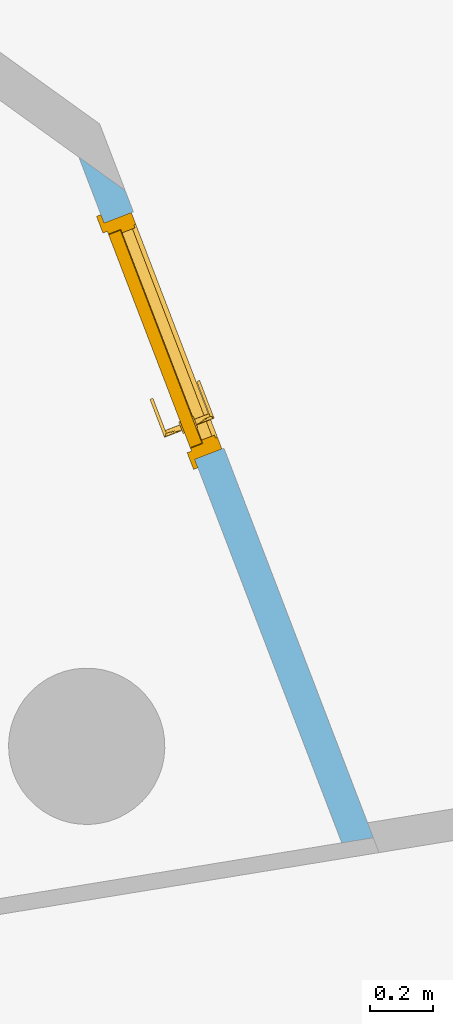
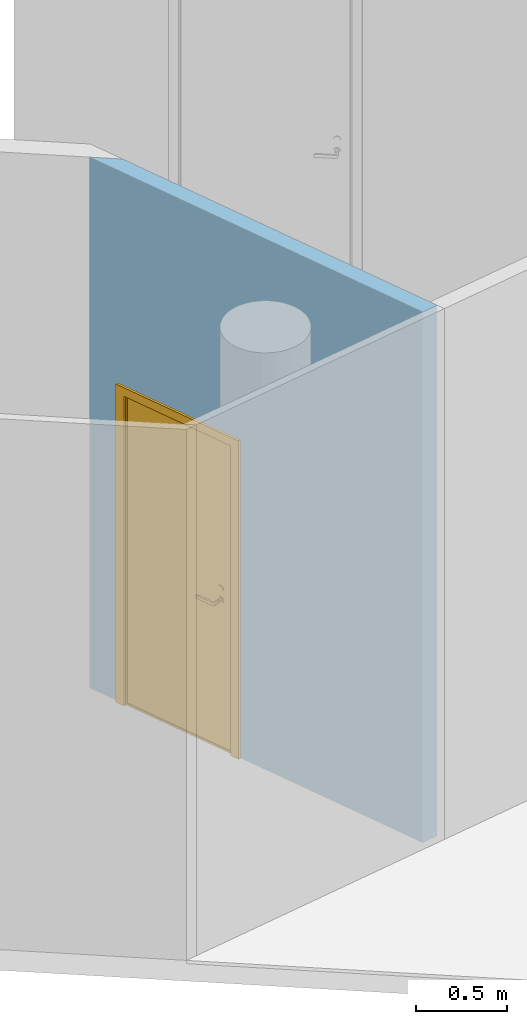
# One storey, part 6 of 10: 1 door, 1 opening, plus 1 element that does not belong to this part.
"""IFC2X3 building model written with IfcOpenShell, lengths in millimetres."""

from ifc_helpers import new_model, entity, si_unit, converted_unit, derived_unit, direction, frame, frame_2d, origin, origin_with_axes, place, context, subcontext, project, spatial, polyline, rectangle, outline, extrude, faceted_brep, source, transform, mapped, material, material_list, layer, layer_set, layer_usage, type_object, element, fill, save


model = new_model("IFC2X3")

# Units and contexts
model_context = context("Model", 3, precision=0.01, world=origin(), true_north=direction((6.12323399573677e-17, 1.0)))
plan_context = context("Plan", 3, precision=1e-05, world=origin_with_axes())
body_context = subcontext(model_context, "Body", "Model", "MODEL_VIEW")
ifc_project = project(units=[converted_unit("PLANEANGLEUNIT", "DEGREE", entity("IfcPositiveLengthMeasure", 0.0174532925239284), si_unit("PLANEANGLEUNIT", "RADIAN"), dimensions=[0, 0, 0, 0, 0, 0, 0]), si_unit("AREAUNIT", "SQUARE_METRE"), si_unit("LENGTHUNIT", "METRE", prefix="MILLI"), si_unit("MASSUNIT", "GRAM", prefix="KILO"), si_unit("POWERUNIT", "WATT"), si_unit("PRESSUREUNIT", "PASCAL", prefix="KILO"), si_unit("FORCEUNIT", "NEWTON", prefix="KILO"), si_unit("ELECTRICVOLTAGEUNIT", "VOLT"), si_unit("ELECTRICCURRENTUNIT", "AMPERE"), si_unit("THERMODYNAMICTEMPERATUREUNIT", "DEGREE_CELSIUS"), si_unit("TIMEUNIT", "SECOND"), si_unit("VOLUMEUNIT", "CUBIC_METRE"), derived_unit("LINEARVELOCITYUNIT", [(si_unit("LENGTHUNIT", "METRE"), 1), (si_unit("TIMEUNIT", "SECOND"), -1)]), derived_unit("VOLUMETRICFLOWRATEUNIT", [(si_unit("VOLUMEUNIT", "CUBIC_METRE"), 1), (si_unit("TIMEUNIT", "SECOND"), -1)]), derived_unit("THERMALTRANSMITTANCEUNIT", [(si_unit("POWERUNIT", "WATT"), 1), (si_unit("THERMODYNAMICTEMPERATUREUNIT", "KELVIN"), -1), (si_unit("AREAUNIT", "SQUARE_METRE"), -1)]), derived_unit("SOUNDPRESSUREUNIT", [(si_unit("PRESSUREUNIT", "PASCAL"), 1)])], contexts=[model_context, plan_context])

# Site, building, storey
site_placement = place(None, frame((-305029.896016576, -232111.759730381, 0.0), z_axis=(0.0, 0.0, 1.0), x_axis=(-0.160806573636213, 0.986985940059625, 0.0)))
site = spatial("IfcSite", under=ifc_project, at=site_placement, Name="Default", CompositionType="ELEMENT")
building_placement = place(site_placement, frame((0.0, 0.0, 0.0), z_axis=(0.0, 0.0, 1.0), x_axis=(1.0, -2.77555756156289e-17, 0.0)))
building = spatial("IfcBuilding", under=site, at=building_placement, Name="br001-a-200-1-0001", CompositionType="ELEMENT")
storey_placement = place(building_placement, frame((0.0, 0.0, 55500.0), z_axis=(0.0, 0.0, 1.0), x_axis=(1.0, -2.77555756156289e-17, 0.0)))
storey = spatial("IfcBuildingStorey", under=building, at=storey_placement, Name="H02-Nivå F-3,5 m", CompositionType="ELEMENT", Elevation=55500.0)

# Wall, opening, door
ifc_material_1 = material(Name="_NSW Standard")
ifc_layer = layer(ifc_material_1, 100.0)
ifc_layer_set = layer_set([ifc_layer], Name="Basic Wall:A242 - Standard 100")
ifc_layer_usage = layer_usage(ifc_layer_set, "AXIS2", "NEGATIVE", 50.0)
wall_type = type_object("IfcWallType", Name="Basic Wall:A242 - Standard 100", PredefinedType="STANDARD", material=ifc_layer_set)
wall_placement = place(storey_placement, frame((1180553.12882956, -675093.784707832, 0.0), z_axis=(0.0, 0.0, 1.0), x_axis=(-0.979141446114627, -0.203179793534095, 0.0)))
wall = element("IfcWallStandardCase", 1, at=wall_placement, inside=storey, type_object=wall_type, material=ifc_layer_usage, Name="Basic Wall:A242 - Standard 100", ObjectType="Basic Wall:A242 - Standard 100", context=body_context, shape_type="SweptSolid", body=[
    extrude(outline(polyline([(0.0, -50.0), (2349.37583797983, -50.0), (2370.12664924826, 50.0), (2319.06150416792, 50.0), (152.368514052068, 50.0), (0.0, -50.0)])), origin(), (0.0, 0.0, 1.0), 3550.00000000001),
])
opening_placement = place(wall_placement, frame((1035.58822284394, 50.0, 0.0), z_axis=(0.0, 0.0, 1.0), x_axis=(1.0, 0.0, 0.0)))
opening = element("IfcOpeningElement", 2, at=opening_placement, cuts=wall, Name="NSW Innvendig slagdør, enkel:8M x 21M:1", ObjectType="Opening", context=body_context, shape_type="SweptSolid", body=[
    extrude(rectangle(XDim=2100.00000000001, YDim=810.0, at=frame_2d((1050.0, 405.000000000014), x_axis=(1.0, 0.0))), frame((0.0, 0.0, 0.0), z_axis=(0.0, -1.0, 0.0), x_axis=(0.0, 0.0, 1.0)), (0.0, 0.0, 1.0), 100.0),
])
ifc_material_2 = material(Name="<Unnamed>")
ifc_material_3 = material(Name="_NSW Dør - dørblad, hvit")
ifc_material_4 = material(Name="_NSW Dør - terskel, tre")
ifc_material_5 = material(Name="_NSW Dør - listverk, hvit")
ifc_material_list = material_list([ifc_material_2, ifc_material_3, ifc_material_4, ifc_material_5])
door_style = type_object("IfcDoorStyle", Name="NSW Innvendig slagdør, enkel:8M x 21M", ConstructionType="NOTDEFINED", OperationType="NOTDEFINED", ParameterTakesPrecedence=False, Sizeable=False, material=ifc_material_list)
shared_shape = source(origin(), body_context, "Body", "Brep", [
    faceted_brep([(-122.179491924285, 55.0, 1065.50000000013), (-120.181483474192, 55.0, 1070.32361909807), (-119.499999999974, 55.0, 1075.50000000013), (-120.181483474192, 55.0, 1080.67638090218), (-122.179491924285, 55.0, 1085.50000000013), (-125.357864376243, 55.0, 1089.64213562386), (-129.499999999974, 55.0, 1092.82050807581), (-134.323619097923, 55.0, 1094.81851652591), (-139.499999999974, 55.0, 1095.50000000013), (-144.676380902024, 55.0, 1094.81851652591), (-149.499999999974, 55.0, 1092.82050807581), (-153.642135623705, 55.0, 1089.64213562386), (-156.820508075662, 55.0, 1085.50000000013), (-158.818516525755, 55.0, 1080.67638090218), (-159.499999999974, 55.0, 1075.50000000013), (-158.818516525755, 55.0, 1070.32361909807), (-156.820508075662, 55.0, 1065.50000000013), (-153.642135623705, 55.0, 1061.35786437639), (-149.499999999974, 55.0, 1058.17949192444), (-144.676380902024, 55.0, 1056.18148347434), (-139.499999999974, 55.0, 1055.50000000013), (-134.323619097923, 55.0, 1056.18148347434), (-129.499999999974, 55.0, 1058.17949192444), (-125.357864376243, 55.0, 1061.35786437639), (-139.499999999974, 60.0, 1095.50000000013), (-134.323619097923, 60.0, 1094.81851652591), (-129.499999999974, 60.0, 1092.82050807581), (-125.357864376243, 60.0, 1089.64213562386), (-122.179491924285, 60.0, 1085.50000000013), (-120.181483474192, 60.0, 1080.67638090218), (-119.499999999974, 60.0, 1075.50000000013), (-120.181483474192, 60.0, 1070.32361909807), (-122.179491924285, 60.0, 1065.50000000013), (-125.357864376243, 60.0, 1061.35786437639), (-129.499999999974, 60.0, 1058.17949192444), (-134.323619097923, 60.0, 1056.18148347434), (-139.499999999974, 60.0, 1055.50000000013), (-144.676380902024, 60.0, 1056.18148347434), (-149.499999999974, 60.0, 1058.17949192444), (-153.642135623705, 60.0, 1061.35786437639), (-156.820508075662, 60.0, 1065.50000000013), (-158.818516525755, 60.0, 1070.32361909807), (-159.499999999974, 60.0, 1075.50000000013), (-158.818516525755, 60.0, 1080.67638090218), (-156.820508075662, 60.0, 1085.50000000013), (-153.642135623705, 60.0, 1089.64213562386), (-149.499999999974, 60.0, 1092.82050807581), (-144.676380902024, 60.0, 1094.81851652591)], [[[0, 1, 2, 3, 4, 5, 6, 7, 8, 9, 10, 11, 12, 13, 14, 15, 16, 17, 18, 19, 20, 21, 22, 23]], [[24, 25, 26, 27, 28, 29, 30, 31, 32, 33, 34, 35, 36, 37, 38, 39, 40, 41, 42, 43, 44, 45, 46, 47]], [[41, 15, 14, 42]], [[40, 16, 15, 41]], [[18, 17, 39, 38]], [[40, 39, 17, 16]], [[19, 18, 38, 37]], [[20, 19, 37, 36]], [[35, 21, 20, 36]], [[34, 22, 21, 35]], [[0, 23, 33, 32]], [[34, 33, 23, 22]], [[1, 0, 32, 31]], [[2, 1, 31, 30]], [[29, 3, 2, 30]], [[28, 4, 3, 29]], [[6, 5, 27, 26]], [[28, 27, 5, 4]], [[7, 6, 26, 25]], [[8, 7, 25, 24]], [[47, 9, 8, 24]], [[46, 10, 9, 47]], [[12, 11, 45, 44]], [[46, 45, 11, 10]], [[13, 12, 44, 43]], [[14, 13, 43, 42]]]),
    faceted_brep([(-139.499999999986, -5.0, 990.500000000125), (-19.4999999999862, -5.0, 990.500000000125), (-19.4999999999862, -5.0, 1010.50000000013), (-139.499999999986, -5.0, 1010.50000000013), (-142.088190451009, -5.0, 1010.15925826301), (-144.499999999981, -5.0, 1009.16025403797), (-146.571067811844, -5.0, 1007.57106781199), (-148.16025403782, -5.0, 1005.50000000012), (-149.159258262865, -5.0, 1003.08819045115), (-149.499999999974, -5.0, 1000.50000000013), (-149.159258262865, -5.0, 997.911809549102), (-148.16025403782, -5.0, 995.500000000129), (-146.571067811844, -5.0, 993.428932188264), (-144.499999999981, -5.0, 991.839745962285), (-142.088190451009, -5.0, 990.840741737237), (-136.911809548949, 5.0, 990.840741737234), (-134.499999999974, 5.0, 991.839745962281), (-132.428932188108, 5.0, 993.42893218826), (-130.839745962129, 5.0, 995.500000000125), (-129.840741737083, 5.0, 997.9118095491), (-129.499999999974, 5.0, 1000.50000000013), (-129.840741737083, 5.0, 1003.08819045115), (-130.839745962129, 5.0, 1005.50000000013), (-132.428932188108, 5.0, 1007.57106781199), (-134.499999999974, 5.0, 1009.16025403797), (-136.911809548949, 5.0, 1010.15925826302), (-139.499999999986, 5.0, 1010.50000000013), (-19.4999999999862, 5.0, 1010.50000000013), (-19.4999999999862, 5.0, 990.500000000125), (-139.499999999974, 5.0, 990.500000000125), (-139.499999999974, 55.0, 1010.50000000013), (-136.911809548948, 55.0, 1010.15925826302), (-134.499999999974, 55.0, 1009.16025403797), (-132.428932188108, 55.0, 1007.57106781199), (-130.839745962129, 55.0, 1005.50000000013), (-129.840741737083, 55.0, 1003.08819045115), (-129.499999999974, 55.0, 1000.50000000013), (-129.840741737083, 55.0, 997.9118095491), (-130.839745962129, 55.0, 995.500000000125), (-132.428932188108, 55.0, 993.42893218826), (-134.499999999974, 55.0, 991.839745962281), (-136.911809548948, 55.0, 990.840741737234), (-139.499999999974, 55.0, 990.500000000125), (-142.088190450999, 55.0, 990.840741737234), (-144.499999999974, 55.0, 991.839745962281), (-146.571067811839, 55.0, 993.42893218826), (-148.160254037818, 55.0, 995.500000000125), (-149.159258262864, 55.0, 997.9118095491), (-149.499999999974, 55.0, 1000.50000000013), (-149.159258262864, 55.0, 1003.08819045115), (-148.160254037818, 55.0, 1005.50000000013), (-146.571067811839, 55.0, 1007.57106781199), (-144.499999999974, 55.0, 1009.16025403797), (-142.088190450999, 55.0, 1010.15925826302)], [[[0, 1, 2, 3, 4, 5, 6, 7, 8, 9, 10, 11, 12, 13, 14]], [[15, 16, 17, 18, 19, 20, 21, 22, 23, 24, 25, 26, 27, 28, 29]], [[1, 0, 29, 28]], [[2, 1, 28, 27]], [[3, 2, 27, 26]], [[30, 31, 32, 33, 34, 35, 36, 37, 38, 39, 40, 41, 42, 43, 44, 45, 46, 47, 48, 49, 50, 51, 52, 53]], [[47, 10, 9, 48]], [[46, 11, 10, 47]], [[46, 45, 29]], [[29, 11, 46]], [[45, 44, 29]], [[29, 14, 13]], [[13, 12, 29]], [[29, 12, 11]], [[29, 0, 14]], [[42, 29, 43]], [[29, 44, 43]], [[41, 15, 29, 42]], [[40, 16, 15, 41]], [[18, 17, 39, 38]], [[38, 37, 19, 18]], [[40, 39, 17, 16]], [[36, 20, 19, 37]], [[35, 21, 20, 36]], [[34, 22, 21, 35]], [[24, 23, 33, 32]], [[34, 33, 23, 22]], [[25, 24, 32, 31]], [[25, 31, 30, 26]], [[53, 26, 30]], [[26, 4, 3]], [[52, 26, 53]], [[26, 51, 50]], [[50, 49, 8, 7]], [[52, 51, 26]], [[48, 9, 8, 49]], [[26, 5, 4]], [[5, 26, 6]], [[7, 6, 26]], [[7, 26, 50]]]),
    faceted_brep([(-129.499999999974, 55.0, 983.179491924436), (-125.357864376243, 55.0, 986.357864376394), (-122.179491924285, 55.0, 990.500000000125), (-120.181483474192, 55.0, 995.323619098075), (-119.499999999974, 55.0, 1000.50000000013), (-120.181483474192, 55.0, 1005.67638090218), (-122.179491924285, 55.0, 1010.50000000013), (-125.357864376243, 55.0, 1014.64213562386), (-129.499999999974, 55.0, 1017.82050807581), (-134.323619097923, 55.0, 1019.81851652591), (-139.499999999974, 55.0, 1020.50000000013), (-144.676380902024, 55.0, 1019.81851652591), (-149.499999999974, 55.0, 1017.82050807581), (-153.642135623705, 55.0, 1014.64213562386), (-156.820508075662, 55.0, 1010.50000000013), (-158.818516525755, 55.0, 1005.67638090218), (-159.499999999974, 55.0, 1000.50000000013), (-158.818516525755, 55.0, 995.323619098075), (-156.820508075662, 55.0, 990.500000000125), (-153.642135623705, 55.0, 986.357864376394), (-149.499999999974, 55.0, 983.179491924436), (-144.676380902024, 55.0, 981.181483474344), (-139.499999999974, 55.0, 980.500000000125), (-134.323619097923, 55.0, 981.181483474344), (-139.499999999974, 60.0, 1020.50000000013), (-134.323619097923, 60.0, 1019.81851652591), (-129.499999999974, 60.0, 1017.82050807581), (-125.357864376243, 60.0, 1014.64213562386), (-122.179491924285, 60.0, 1010.50000000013), (-120.181483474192, 60.0, 1005.67638090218), (-119.499999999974, 60.0, 1000.50000000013), (-120.181483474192, 60.0, 995.323619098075), (-122.179491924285, 60.0, 990.500000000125), (-125.357864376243, 60.0, 986.357864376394), (-129.499999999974, 60.0, 983.179491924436), (-134.323619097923, 60.0, 981.181483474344), (-139.499999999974, 60.0, 980.500000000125), (-144.676380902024, 60.0, 981.181483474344), (-149.499999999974, 60.0, 983.179491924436), (-153.642135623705, 60.0, 986.357864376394), (-156.820508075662, 60.0, 990.500000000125), (-158.818516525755, 60.0, 995.323619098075), (-159.499999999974, 60.0, 1000.50000000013), (-158.818516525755, 60.0, 1005.67638090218), (-156.820508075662, 60.0, 1010.50000000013), (-153.642135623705, 60.0, 1014.64213562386), (-149.499999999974, 60.0, 1017.82050807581), (-144.676380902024, 60.0, 1019.81851652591)], [[[0, 1, 2, 3, 4, 5, 6, 7, 8, 9, 10, 11, 12, 13, 14, 15, 16, 17, 18, 19, 20, 21, 22, 23]], [[24, 25, 26, 27, 28, 29, 30, 31, 32, 33, 34, 35, 36, 37, 38, 39, 40, 41, 42, 43, 44, 45, 46, 47]], [[41, 17, 16, 42]], [[40, 18, 17, 41]], [[20, 19, 39, 38]], [[40, 39, 19, 18]], [[21, 20, 38, 37]], [[22, 21, 37, 36]], [[35, 23, 22, 36]], [[34, 0, 23, 35]], [[2, 1, 33, 32]], [[34, 33, 1, 0]], [[3, 2, 32, 31]], [[4, 3, 31, 30]], [[29, 5, 4, 30]], [[28, 6, 5, 29]], [[8, 7, 27, 26]], [[28, 27, 7, 6]], [[9, 8, 26, 25]], [[10, 9, 25, 24]], [[47, 11, 10, 24]], [[46, 12, 11, 47]], [[14, 13, 45, 44]], [[46, 45, 13, 12]], [[15, 14, 44, 43]], [[16, 15, 43, 42]]]),
    faceted_brep([(-129.499999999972, 105.0, 1058.17949192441), (-134.323619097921, 105.0, 1056.18148347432), (-139.499999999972, 105.0, 1055.5000000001), (-144.676380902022, 105.0, 1056.18148347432), (-149.499999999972, 105.0, 1058.17949192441), (-153.642135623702, 105.0, 1061.35786437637), (-156.82050807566, 105.0, 1065.5000000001), (-158.818516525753, 105.0, 1070.32361909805), (-159.499999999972, 105.0, 1075.5000000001), (-158.818516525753, 105.0, 1080.67638090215), (-156.82050807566, 105.0, 1085.5000000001), (-153.642135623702, 105.0, 1089.64213562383), (-149.499999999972, 105.0, 1092.82050807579), (-144.676380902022, 105.0, 1094.81851652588), (-139.499999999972, 105.0, 1095.5000000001), (-134.323619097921, 105.0, 1094.81851652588), (-129.499999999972, 105.0, 1092.82050807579), (-125.357864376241, 105.0, 1089.64213562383), (-122.179491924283, 105.0, 1085.5000000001), (-120.18148347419, 105.0, 1080.67638090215), (-119.499999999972, 105.0, 1075.5000000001), (-120.18148347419, 105.0, 1070.32361909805), (-122.179491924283, 105.0, 1065.5000000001), (-125.357864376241, 105.0, 1061.35786437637), (-129.499999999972, 100.0, 1092.82050807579), (-134.323619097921, 100.0, 1094.81851652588), (-139.499999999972, 100.0, 1095.5000000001), (-144.676380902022, 100.0, 1094.81851652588), (-149.499999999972, 100.0, 1092.82050807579), (-153.642135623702, 100.0, 1089.64213562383), (-156.82050807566, 100.0, 1085.5000000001), (-158.818516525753, 100.0, 1080.67638090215), (-159.499999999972, 100.0, 1075.5000000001), (-158.818516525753, 100.0, 1070.32361909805), (-156.82050807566, 100.0, 1065.5000000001), (-153.642135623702, 100.0, 1061.35786437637), (-149.499999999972, 100.0, 1058.17949192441), (-144.676380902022, 100.0, 1056.18148347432), (-139.499999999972, 100.0, 1055.5000000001), (-134.323619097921, 100.0, 1056.18148347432), (-129.499999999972, 100.0, 1058.17949192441), (-125.357864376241, 100.0, 1061.35786437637), (-122.179491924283, 100.0, 1065.5000000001), (-120.18148347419, 100.0, 1070.32361909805), (-119.499999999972, 100.0, 1075.5000000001), (-120.18148347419, 100.0, 1080.67638090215), (-122.179491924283, 100.0, 1085.5000000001), (-125.357864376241, 100.0, 1089.64213562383)], [[[0, 1, 2, 3, 4, 5, 6, 7, 8, 9, 10, 11, 12, 13, 14, 15, 16, 17, 18, 19, 20, 21, 22, 23]], [[24, 25, 26, 27, 28, 29, 30, 31, 32, 33, 34, 35, 36, 37, 38, 39, 40, 41, 42, 43, 44, 45, 46, 47]], [[32, 8, 7, 33]], [[33, 7, 6, 34]], [[36, 35, 5, 4]], [[5, 35, 34, 6]], [[37, 36, 4, 3]], [[37, 3, 2, 38]], [[38, 2, 1, 39]], [[39, 1, 0, 40]], [[42, 41, 23, 22]], [[23, 41, 40, 0]], [[43, 42, 22, 21]], [[43, 21, 20, 44]], [[44, 20, 19, 45]], [[45, 19, 18, 46]], [[24, 47, 17, 16]], [[17, 47, 46, 18]], [[25, 24, 16, 15]], [[25, 15, 14, 26]], [[26, 14, 13, 27]], [[27, 13, 12, 28]], [[30, 29, 11, 10]], [[11, 29, 28, 12]], [[31, 30, 10, 9]], [[31, 9, 8, 32]]]),
    faceted_brep([(-146.571067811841, 165.0, 1007.57106781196), (-144.499999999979, 165.0, 1009.16025403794), (-142.088190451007, 165.0, 1010.15925826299), (-139.499999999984, 165.0, 1010.5000000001), (-19.499999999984, 165.0, 1010.5000000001), (-19.499999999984, 165.0, 990.500000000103), (-139.499999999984, 165.0, 990.500000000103), (-142.088190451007, 165.0, 990.840741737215), (-144.499999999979, 165.0, 991.839745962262), (-146.571067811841, 165.0, 993.428932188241), (-148.160254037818, 165.0, 995.500000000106), (-149.159258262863, 165.0, 997.911809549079), (-149.499999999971, 165.0, 1000.5000000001), (-149.159258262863, 165.0, 1003.08819045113), (-148.160254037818, 165.0, 1005.5000000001), (-19.499999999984, 155.0, 990.500000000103), (-19.499999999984, 155.0, 1010.5000000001), (-139.499999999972, 155.0, 1010.5000000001), (-136.911809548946, 155.0, 1010.15925826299), (-134.499999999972, 155.0, 1009.16025403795), (-132.428932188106, 155.0, 1007.57106781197), (-130.839745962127, 155.0, 1005.5000000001), (-129.840741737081, 155.0, 1003.08819045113), (-129.499999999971, 155.0, 1000.5000000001), (-129.840741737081, 155.0, 997.911809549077), (-130.839745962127, 155.0, 995.500000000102), (-132.428932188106, 155.0, 993.428932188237), (-134.499999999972, 155.0, 991.839745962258), (-136.911809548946, 155.0, 990.840741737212), (-139.499999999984, 155.0, 990.500000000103), (-134.499999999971, 105.0, 1009.16025403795), (-136.911809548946, 105.0, 1010.15925826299), (-139.499999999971, 105.0, 1010.5000000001), (-142.088190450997, 105.0, 1010.15925826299), (-144.499999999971, 105.0, 1009.16025403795), (-146.571067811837, 105.0, 1007.57106781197), (-148.160254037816, 105.0, 1005.5000000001), (-149.159258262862, 105.0, 1003.08819045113), (-149.499999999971, 105.0, 1000.5000000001), (-149.159258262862, 105.0, 997.911809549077), (-148.160254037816, 105.0, 995.500000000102), (-146.571067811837, 105.0, 993.428932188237), (-144.499999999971, 105.0, 991.839745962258), (-142.088190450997, 105.0, 990.840741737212), (-139.499999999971, 105.0, 990.500000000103), (-136.911809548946, 105.0, 990.840741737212), (-134.499999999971, 105.0, 991.839745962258), (-132.428932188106, 105.0, 993.428932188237), (-130.839745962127, 105.0, 995.500000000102), (-129.840741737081, 105.0, 997.911809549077), (-129.499999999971, 105.0, 1000.5000000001), (-129.840741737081, 105.0, 1003.08819045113), (-130.839745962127, 105.0, 1005.5000000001), (-132.428932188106, 105.0, 1007.57106781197)], [[[0, 1, 2, 3, 4, 5, 6, 7, 8, 9, 10, 11, 12, 13, 14]], [[15, 16, 17, 18, 19, 20, 21, 22, 23, 24, 25, 26, 27, 28, 29]], [[29, 6, 5, 15]], [[15, 5, 4, 16]], [[16, 4, 3, 17]], [[30, 31, 32, 33, 34, 35, 36, 37, 38, 39, 40, 41, 42, 43, 44, 45, 46, 47, 48, 49, 50, 51, 52, 53]], [[38, 12, 11, 39]], [[39, 11, 10, 40]], [[29, 41, 40]], [[40, 10, 29]], [[29, 42, 41]], [[8, 7, 29]], [[29, 9, 8]], [[10, 9, 29]], [[7, 6, 29]], [[43, 29, 44]], [[43, 42, 29]], [[44, 29, 28, 45]], [[45, 28, 27, 46]], [[48, 47, 26, 25]], [[24, 49, 48, 25]], [[26, 47, 46, 27]], [[49, 24, 23, 50]], [[50, 23, 22, 51]], [[51, 22, 21, 52]], [[30, 53, 20, 19]], [[20, 53, 52, 21]], [[31, 30, 19, 18]], [[17, 32, 31, 18]], [[32, 17, 33]], [[3, 2, 17]], [[33, 17, 34]], [[36, 35, 17]], [[13, 37, 36, 14]], [[17, 35, 34]], [[37, 13, 12, 38]], [[2, 1, 17]], [[0, 17, 1]], [[17, 0, 14]], [[36, 17, 14]]]),
    faceted_brep([(-134.323619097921, 105.0, 981.181483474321), (-139.499999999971, 105.0, 980.500000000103), (-144.676380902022, 105.0, 981.181483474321), (-149.499999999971, 105.0, 983.179491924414), (-153.642135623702, 105.0, 986.357864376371), (-156.82050807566, 105.0, 990.500000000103), (-158.818516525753, 105.0, 995.323619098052), (-159.499999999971, 105.0, 1000.5000000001), (-158.818516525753, 105.0, 1005.67638090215), (-156.82050807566, 105.0, 1010.5000000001), (-153.642135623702, 105.0, 1014.64213562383), (-149.499999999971, 105.0, 1017.82050807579), (-144.676380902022, 105.0, 1019.81851652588), (-139.499999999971, 105.0, 1020.5000000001), (-134.323619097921, 105.0, 1019.81851652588), (-129.499999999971, 105.0, 1017.82050807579), (-125.357864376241, 105.0, 1014.64213562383), (-122.179491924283, 105.0, 1010.5000000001), (-120.18148347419, 105.0, 1005.67638090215), (-119.499999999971, 105.0, 1000.5000000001), (-120.18148347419, 105.0, 995.323619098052), (-122.179491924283, 105.0, 990.500000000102), (-125.357864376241, 105.0, 986.357864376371), (-129.499999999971, 105.0, 983.179491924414), (-129.499999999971, 100.0, 1017.82050807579), (-134.323619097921, 100.0, 1019.81851652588), (-139.499999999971, 100.0, 1020.5000000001), (-144.676380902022, 100.0, 1019.81851652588), (-149.499999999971, 100.0, 1017.82050807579), (-153.642135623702, 100.0, 1014.64213562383), (-156.82050807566, 100.0, 1010.5000000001), (-158.818516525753, 100.0, 1005.67638090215), (-159.499999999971, 100.0, 1000.5000000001), (-158.818516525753, 100.0, 995.323619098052), (-156.82050807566, 100.0, 990.500000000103), (-153.642135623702, 100.0, 986.357864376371), (-149.499999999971, 100.0, 983.179491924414), (-144.676380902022, 100.0, 981.181483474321), (-139.499999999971, 100.0, 980.500000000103), (-134.323619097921, 100.0, 981.181483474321), (-129.499999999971, 100.0, 983.179491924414), (-125.357864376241, 100.0, 986.357864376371), (-122.179491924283, 100.0, 990.500000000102), (-120.18148347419, 100.0, 995.323619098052), (-119.499999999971, 100.0, 1000.5000000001), (-120.18148347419, 100.0, 1005.67638090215), (-122.179491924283, 100.0, 1010.5000000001), (-125.357864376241, 100.0, 1014.64213562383)], [[[0, 1, 2, 3, 4, 5, 6, 7, 8, 9, 10, 11, 12, 13, 14, 15, 16, 17, 18, 19, 20, 21, 22, 23]], [[24, 25, 26, 27, 28, 29, 30, 31, 32, 33, 34, 35, 36, 37, 38, 39, 40, 41, 42, 43, 44, 45, 46, 47]], [[32, 7, 6, 33]], [[33, 6, 5, 34]], [[36, 35, 4, 3]], [[4, 35, 34, 5]], [[37, 36, 3, 2]], [[37, 2, 1, 38]], [[38, 1, 0, 39]], [[39, 0, 23, 40]], [[42, 41, 22, 21]], [[22, 41, 40, 23]], [[43, 42, 21, 20]], [[43, 20, 19, 44]], [[44, 19, 18, 45]], [[45, 18, 17, 46]], [[24, 47, 16, 15]], [[16, 47, 46, 17]], [[25, 24, 15, 14]], [[25, 14, 13, 26]], [[26, 13, 12, 27]], [[27, 12, 11, 28]], [[30, 29, 10, 9]], [[10, 29, 28, 11]], [[31, 30, 9, 8]], [[31, 8, 7, 32]]]),
    faceted_brep([(519.500000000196, 60.0, 2059.0), (-209.499999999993, 60.0, 2059.0), (-209.499999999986, 60.0, 18.0), (519.500000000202, 60.0, 18.0), (519.500000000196, 100.0, 2059.0), (519.500000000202, 100.0, 18.0), (-209.499999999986, 100.0, 18.0), (-209.499999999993, 100.0, 2059.0)], [[[0, 1, 2, 3]], [[4, 5, 6, 7]], [[3, 5, 4, 0]], [[2, 6, 5, 3]], [[1, 7, 6, 2]], [[0, 4, 7, 1]]]),
    faceted_brep([(522.0, 100.0, 0.0), (560.0, 100.0, 0.0), (560.0, 7.0, 0.0), (520.0, 7.0, 0.0), (520.0, 13.5000000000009, 0.0), (510.0, 13.5000000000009, 0.0), (510.0, 57.5, 0.0), (522.0, 57.5, 0.0), (522.0, 57.5, 2062.0), (522.0, 100.0, 2062.0), (510.0, 57.5, 2050.0), (-200.0, 57.5, 2050.0), (-200.0, 57.5, 0.0), (-212.0, 57.5, 0.0), (-212.0, 57.5, 2062.0), (510.0, 13.5000000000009, 2050.0), (520.0, 13.5000000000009, 2060.0), (-210.0, 13.5000000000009, 2060.0), (-210.0, 13.5000000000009, 0.0), (-200.0, 13.5000000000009, 0.0), (-200.0, 13.5000000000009, 2050.0), (520.0, 7.0, 2060.0), (560.0, 7.0, 2100.0), (-250.0, 7.0, 2100.0), (-250.0, 7.0, 0.0), (-210.0, 7.0, 0.0), (-210.0, 7.0, 2060.0), (560.0, 100.0, 2100.0), (-212.0, 100.0, 2062.0), (-212.0, 100.0, 0.0), (-250.0, 100.0, 0.0), (-250.0, 100.0, 2100.0)], [[[0, 1, 2, 3, 4, 5, 6, 7]], [[7, 8, 9, 0]], [[6, 10, 11, 12, 13, 14, 8, 7]], [[5, 15, 10, 6]], [[4, 16, 17, 18, 19, 20, 15, 5]], [[3, 21, 16, 4]], [[2, 22, 23, 24, 25, 26, 21, 3]], [[1, 27, 22, 2]], [[0, 9, 28, 29, 30, 31, 27, 1]], [[8, 14, 28, 9]], [[15, 20, 11, 10]], [[21, 26, 17, 16]], [[27, 31, 23, 22]], [[29, 13, 12, 19, 18, 25, 24, 30]], [[14, 13, 29, 28]], [[20, 19, 12, 11]], [[26, 25, 18, 17]], [[31, 30, 24, 23]]]),
    faceted_brep([(-212.0, 100.0, 0.0), (-212.0, 100.0, 14.0), (522.0, 100.0, 14.0), (522.0, 100.0, 0.0), (-212.0, 57.5000000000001, 14.0), (-200.0, 57.4999999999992, 14.0), (510.0, 57.5000000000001, 14.0), (522.0, 57.5000000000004, 14.0), (-200.0, 57.4999999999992, 22.0), (510.0, 57.5000000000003, 22.0), (-200.0, 22.0, 22.0), (510.0, 22.0, 22.0), (-200.0, 13.5000000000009, 17.4666666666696), (-210.0, 13.5000000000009, 17.4666666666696), (-210.0, 7.0, 14.0), (520.0, 7.0, 14.0), (520.0, 13.5000000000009, 17.4666666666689), (510.0, 13.5000000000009, 17.4666666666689), (-210.0, 7.0, 0.0), (520.0, 7.0, 0.0), (522.0, 57.5000000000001, 0.0), (510.0, 57.5000000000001, 0.0), (510.0, 13.5000000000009, 0.0), (520.0, 13.5000000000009, 0.0), (-210.0, 13.5000000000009, 0.0), (-200.0, 13.5000000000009, 0.0), (-200.0, 57.5000000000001, 0.0), (-212.0, 57.5000000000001, 0.0)], [[[0, 1, 2, 3]], [[1, 4, 5, 6, 7, 2]], [[5, 8, 9, 6]], [[8, 10, 11, 9]], [[10, 12, 13, 14, 15, 16, 17, 11]], [[14, 18, 19, 15]], [[3, 20, 21, 22, 23, 19, 18, 24, 25, 26, 27, 0]], [[16, 15, 19, 23]], [[23, 22, 17, 16]], [[6, 9, 11, 17, 22, 21]], [[21, 20, 7, 6]], [[20, 3, 2, 7]], [[4, 1, 0, 27]], [[27, 26, 5, 4]], [[26, 25, 12, 10, 8, 5]], [[25, 24, 13, 12]], [[24, 18, 14, 13]]]),
    faceted_brep([(531.500000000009, 100.0, 0.0), (531.500000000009, 115.0, 0.0), (588.500000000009, 115.0, 0.0), (588.500000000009, 100.0, 0.0), (588.500000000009, 100.0, 2128.50000000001), (-278.499999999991, 100.0, 2128.50000000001), (-278.499999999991, 100.0, 0.0), (-221.499999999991, 100.0, 0.0), (-221.499999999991, 100.0, 2071.50000000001), (531.500000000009, 100.0, 2071.50000000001), (588.500000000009, 115.0, 2128.50000000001), (531.500000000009, 115.0, 2071.50000000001), (-221.499999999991, 115.0, 2071.50000000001), (-221.499999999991, 115.0, 0.0), (-278.499999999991, 115.0, 0.0), (-278.499999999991, 115.0, 2128.50000000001)], [[[0, 1, 2, 3]], [[3, 4, 5, 6, 7, 8, 9, 0]], [[2, 10, 4, 3]], [[1, 11, 12, 13, 14, 15, 10, 2]], [[0, 9, 11, 1]], [[10, 15, 5, 4]], [[9, 8, 12, 11]], [[7, 6, 14, 13]], [[15, 14, 6, 5]], [[8, 7, 13, 12]]]),
])
door_placement = place(opening_placement, frame((-250.0, 0.0, 0.0), z_axis=(0.0, 0.0, 1.0), x_axis=(-1.0, 0.0, 0.0)))
door = element("IfcDoor", 3, at=door_placement, inside=storey, type_object=door_style, material=ifc_material_list, Name="NSW Innvendig slagdør, enkel:8M x 21M", ObjectType="NSW Innvendig slagdør, enkel:8M x 21M", OverallHeight=2100.00000000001, OverallWidth=810.000000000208, context=body_context, shape_type="MappedRepresentation", body=[
    mapped(shared_shape, transform((0.0, 0.0, 0.0), scale=1.0)),
])
fill(opening, door)

save(model, "model.ifc")
